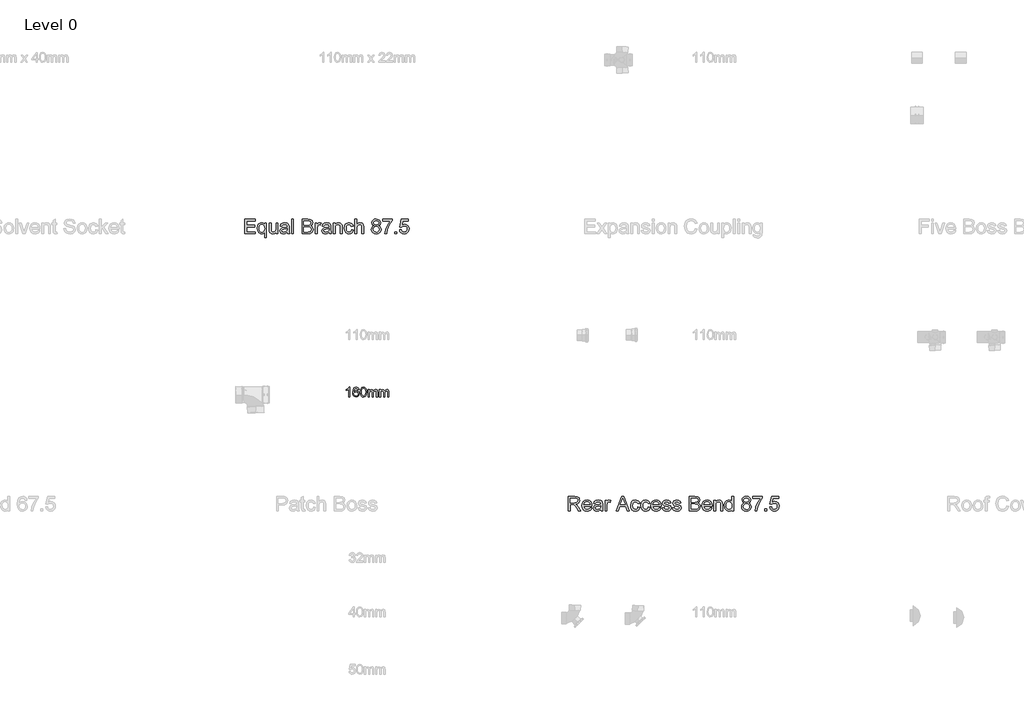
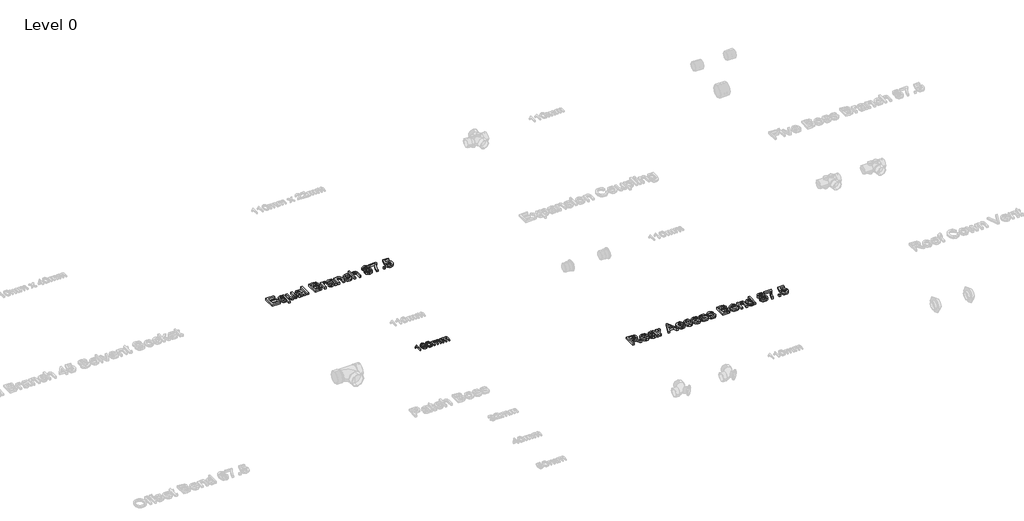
# One storey, part 20 of 28: 3 proxies.
"""IFC4 building model written with IfcOpenShell, lengths in millimetres."""

from ifc_helpers import new_model, si_unit, origin, origin_with_axes, place, context, project, spatial, polyline, outline, extrude, element, save

model = new_model("IFC4")

# Units and contexts
model_context = context("Model", 3, world=origin())
ifc_project = project(units=[si_unit("LENGTHUNIT", "METRE", prefix="MILLI")], contexts=[model_context])

# Site, building, storey
site = spatial("IfcSite", under=ifc_project)
building = spatial("IfcBuilding", under=site)
storey = spatial("IfcBuildingStorey", under=building, Name="Level 0", Elevation=0.0)

# Proxies
placement = place(None, origin())
element("IfcBuildingElementProxy", 1, Name="100mm Arial", ObjectType="100mm Arial", at=placement, inside=storey, context=model_context, shape_type="SweptSolid", body=[
    extrude(outline(polyline([(-6791.7293188, 2057.7167304), (-6804.0370111, 2057.7167304), (-6804.0370111, 2134.4474996), (-6815.6956649, 2126.1422111), (-6828.6523957, 2119.9282688), (-6828.6523957, 2131.5628842), (-6810.6115303, 2143.0773073), (-6799.6620111, 2156.1782688), (-6791.7293188, 2156.1782688), (-6791.7293188, 2057.7167304)])), origin_with_axes(), (0.0, 0.0, 1.0), 15.0),
    extrude(outline(polyline([(-6699.4216264, 2130.0244227), (-6711.7293188, 2128.4859611), (-6716.3927803, 2138.7503842), (-6728.7245111, 2143.8705765), (-6739.8302803, 2140.8898073), (-6748.2317226, 2129.6999035), (-6751.7293188, 2107.7648073), (-6740.8759534, 2117.5845188), (-6727.4264341, 2120.7936535), (-6716.0562418, 2118.6001438), (-6706.5129726, 2112.019615), (-6700.0406168, 2101.9655285), (-6697.8831649, 2089.3513458), (-6701.9456649, 2072.3681727), (-6713.1235495, 2060.3489419), (-6729.2533572, 2056.1782688), (-6743.2166986, 2058.9426919), (-6754.3374918, 2067.2359611), (-6761.6121313, 2081.8753842), (-6764.0370111, 2103.6782688), (-6761.3447034, 2128.19149), (-6753.2677803, 2144.9523073), (-6742.2401361, 2153.3717785), (-6727.9552803, 2156.1782688), (-6717.1560014, 2154.44149), (-6708.5081649, 2149.2311535), (-6702.4504726, 2140.9559131), (-6699.4216264, 2130.0244227)]), holes=[polyline([(-6751.7293188, 2089.5436535), (-6748.8807611, 2078.8825958), (-6741.3086457, 2071.1422111), (-6730.2148957, 2068.4859611), (-6722.0929005, 2069.8621631), (-6715.7076841, 2073.9907688), (-6711.5700639, 2080.4811535), (-6710.1908572, 2088.9426919), (-6711.5520351, 2097.0646871), (-6715.6355688, 2103.2575958), (-6730.7197034, 2108.4859611), (-6745.6115303, 2103.2575958), (-6750.1998716, 2097.2149275), (-6751.7293188, 2089.5436535)])]), origin_with_axes(), (0.0, 0.0, 1.0), 15.0),
    extrude(outline(polyline([(-6687.1139341, 2106.1542304), (-6683.4961457, 2134.4835573), (-6672.7509534, 2150.8176919), (-6654.8062418, 2156.1782688), (-6640.4312418, 2153.0051919), (-6630.5033572, 2143.8585573), (-6624.7341264, 2129.2912496), (-6622.4985495, 2106.1542304), (-6626.0802803, 2077.9450958), (-6636.7894149, 2061.5749035), (-6654.8062418, 2056.1782688), (-6667.5947034, 2058.5220188), (-6677.3062418, 2065.5532688), (-6684.6620111, 2082.2059131), (-6687.1139341, 2106.1542304)]), holes=[polyline([(-6674.8062418, 2106.1782688), (-6673.3639341, 2086.8182929), (-6669.0370111, 2075.613365), (-6662.5947034, 2070.2678121), (-6654.8062418, 2068.4859611), (-6647.0177803, 2070.2738217), (-6640.5754726, 2075.6374035), (-6636.2485495, 2086.848341), (-6634.8062418, 2106.1782688), (-6636.2004726, 2125.1025477), (-6640.3831649, 2136.394615), (-6646.8134534, 2142.0015861), (-6654.9504726, 2143.8705765), (-6662.6547995, 2142.2239419), (-6668.8447034, 2137.2840381), (-6673.3158572, 2125.2888458), (-6674.8062418, 2106.1782688)])]), origin_with_axes(), (0.0, 0.0, 1.0), 15.0),
    extrude(outline(polyline([(-6608.6523957, 2057.7167304), (-6608.6523957, 2130.0244227), (-6596.3447034, 2130.0244227), (-6596.3447034, 2118.1253842), (-6587.8831649, 2127.8729804), (-6575.8398957, 2131.5628842), (-6563.5081649, 2127.800865), (-6556.7293188, 2117.2599996), (-6547.1259534, 2127.9871631), (-6534.9985495, 2131.5628842), (-6525.7467466, 2130.0755044), (-6518.9047995, 2125.613365), (-6514.6770351, 2118.0562736), (-6513.2677803, 2107.2840381), (-6513.2677803, 2057.7167304), (-6525.5754726, 2057.7167304), (-6525.5754726, 2101.9955765), (-6526.7172995, 2112.2720188), (-6530.8519149, 2117.332115), (-6537.8831649, 2119.2551919), (-6549.9865303, 2114.3273073), (-6554.8062418, 2098.5340381), (-6554.8062418, 2057.7167304), (-6567.1139341, 2057.7167304), (-6567.1139341, 2103.3657688), (-6569.9624918, 2115.2888458), (-6579.3014341, 2119.2551919), (-6588.4120111, 2116.6109611), (-6594.4697034, 2108.8705765), (-6596.3447034, 2094.1830765), (-6596.3447034, 2057.7167304), (-6608.6523957, 2057.7167304)])), origin_with_axes(), (0.0, 0.0, 1.0), 15.0),
    extrude(outline(polyline([(-6494.8062418, 2057.7167304), (-6494.8062418, 2130.0244227), (-6482.4985495, 2130.0244227), (-6482.4985495, 2118.1253842), (-6474.0370111, 2127.8729804), (-6461.9937418, 2131.5628842), (-6449.6620111, 2127.800865), (-6442.8831649, 2117.2599996), (-6433.2797995, 2127.9871631), (-6421.1523957, 2131.5628842), (-6411.9005928, 2130.0755044), (-6405.0586457, 2125.613365), (-6400.8308813, 2118.0562736), (-6399.4216264, 2107.2840381), (-6399.4216264, 2057.7167304), (-6411.7293188, 2057.7167304), (-6411.7293188, 2101.9955765), (-6412.8711457, 2112.2720188), (-6417.0057611, 2117.332115), (-6424.0370111, 2119.2551919), (-6436.1403764, 2114.3273073), (-6440.960088, 2098.5340381), (-6440.960088, 2057.7167304), (-6453.2677803, 2057.7167304), (-6453.2677803, 2103.3657688), (-6456.116338, 2115.2888458), (-6465.4552803, 2119.2551919), (-6474.5658572, 2116.6109611), (-6480.6235495, 2108.8705765), (-6482.4985495, 2094.1830765), (-6482.4985495, 2057.7167304), (-6494.8062418, 2057.7167304)])), origin_with_axes(), (0.0, 0.0, 1.0), 15.0),
])
element("IfcBuildingElementProxy", 2, Name="150mm Arial", ObjectType="150mm Arial", at=placement, inside=storey, context=model_context, shape_type="SweptSolid", body=[
    extrude(outline(polyline([(-7854.0664512, 3705.2145219), (-7854.0664512, 3852.9068296), (-7747.912605, 3852.9068296), (-7747.912605, 3834.4452911), (-7835.6049127, 3834.4452911), (-7835.6049127, 3790.5991373), (-7752.5279897, 3790.5991373), (-7752.5279897, 3772.1375988), (-7835.6049127, 3772.1375988), (-7835.6049127, 3723.6760604), (-7745.6049127, 3723.6760604), (-7745.6049127, 3705.2145219), (-7854.0664512, 3705.2145219)])), origin_with_axes(), (0.0, 0.0, 1.0), 25.0),
    extrude(outline(polyline([(-7653.2972204, 3663.6760604), (-7653.2972204, 3719.9981758), (-7665.0159704, 3707.7746181), (-7681.0255858, 3702.9068296), (-7698.5766675, 3706.7514811), (-7713.5135666, 3718.2854354), (-7723.7359223, 3736.5171061), (-7727.1433743, 3760.4549065), (-7721.7347204, 3789.697695), (-7715.1091195, 3801.0738969), (-7706.0496243, 3809.3130796), (-7695.2773887, 3814.3160844), (-7683.5135666, 3815.9837527), (-7666.350105, 3810.8094738), (-7653.2972204, 3795.2866373), (-7653.2972204, 3813.6760604), (-7634.835682, 3813.6760604), (-7634.835682, 3663.6760604), (-7653.2972204, 3663.6760604)]), holes=[polyline([(-7708.6818358, 3759.4452911), (-7706.6040113, 3742.7866373), (-7700.3705377, 3730.8875988), (-7691.2344199, 3723.7481758), (-7680.4486627, 3721.3683681), (-7670.1136267, 3723.6309883), (-7661.320057, 3730.4188488), (-7655.3029296, 3741.8311085), (-7653.2972204, 3757.9669258), (-7655.4111026, 3775.2160243), (-7661.7527493, 3787.58832), (-7670.9429536, 3795.0387407), (-7681.6025089, 3797.5222142), (-7692.0637469, 3795.2100147), (-7700.80323, 3788.2734161), (-7706.7121844, 3776.4419859), (-7708.6818358, 3759.4452911)])]), origin_with_axes(), (0.0, 0.0, 1.0), 25.0),
    extrude(outline(polyline([(-7537.912605, 3705.2145219), (-7537.912605, 3723.8563488), (-7552.3717397, 3708.1442094), (-7571.2299127, 3702.9068296), (-7588.5916916, 3706.5847142), (-7600.5628454, 3715.8154835), (-7606.0616435, 3729.4092335), (-7607.1433743, 3746.572695), (-7607.1433743, 3813.6760604), (-7588.6818358, 3813.6760604), (-7588.6818358, 3755.2625988), (-7587.5640473, 3736.4404835), (-7580.2623647, 3725.3888008), (-7566.506355, 3721.3683681), (-7551.0916916, 3725.478945), (-7540.9053935, 3736.6748585), (-7537.912605, 3757.2457719), (-7537.912605, 3813.6760604), (-7519.4510666, 3813.6760604), (-7519.4510666, 3705.2145219), (-7537.912605, 3705.2145219)])), origin_with_axes(), (0.0, 0.0, 1.0), 25.0),
    extrude(outline(polyline([(-7424.835682, 3719.0606758), (-7442.7383262, 3706.5486565), (-7462.5159704, 3702.9068296), (-7477.9441555, 3705.0973344), (-7489.3248647, 3711.6688488), (-7496.342593, 3721.6478152), (-7498.6818358, 3734.0606758), (-7495.148182, 3748.6640411), (-7485.8633262, 3759.2650027), (-7472.9366435, 3765.322695), (-7456.9630858, 3768.0991373), (-7424.943855, 3774.4452911), (-7424.835682, 3778.5558681), (-7426.1067156, 3786.7950508), (-7429.9198166, 3792.1856758), (-7438.4474608, 3796.1880796), (-7450.3284704, 3797.5222142), (-7469.006355, 3793.9705315), (-7477.912605, 3781.3683681), (-7496.3741435, 3783.6760604), (-7488.3873647, 3801.7049065), (-7472.3056339, 3812.2698104), (-7447.9486627, 3815.9837527), (-7425.5748647, 3812.7025027), (-7412.9366435, 3804.46332), (-7407.2755858, 3791.9332719), (-7406.3741435, 3775.7794258), (-7406.3741435, 3752.8106758), (-7405.4366435, 3720.7373585), (-7401.7587589, 3705.2145219), (-7420.2202973, 3705.2145219), (-7424.835682, 3719.0606758)]), holes=[polyline([(-7424.835682, 3755.9837527), (-7454.6193358, 3750.322695), (-7470.5027493, 3747.3299065), (-7477.6962589, 3742.4621181), (-7480.2202973, 3735.3587527), (-7474.7214993, 3725.3707719), (-7458.585682, 3721.3683681), (-7439.9077973, 3725.7854354), (-7427.8645281, 3736.4765411), (-7424.943855, 3750.7553873), (-7424.835682, 3755.9837527)])]), origin_with_axes(), (0.0, 0.0, 1.0), 25.0),
    extrude(outline(polyline([(-7380.9895281, 3705.2145219), (-7380.9895281, 3852.9068296), (-7362.5279897, 3852.9068296), (-7362.5279897, 3705.2145219), (-7380.9895281, 3705.2145219)])), origin_with_axes(), (0.0, 0.0, 1.0), 25.0),
    extrude(outline(polyline([(-7274.835682, 3705.2145219), (-7274.835682, 3852.9068296), (-7218.4775089, 3852.9068296), (-7190.8753454, 3848.5618777), (-7181.5995041, 3843.049558), (-7174.5772685, 3835.2025027), (-7168.6818358, 3816.3082719), (-7173.6397685, 3799.0546661), (-7188.6217397, 3785.9837527), (-7178.1605017, 3780.5210123), (-7170.4306339, 3772.2097142), (-7165.6574969, 3761.5997383), (-7164.0664512, 3749.2409642), (-7168.4114031, 3729.3912046), (-7179.1746243, 3715.2565892), (-7195.2383262, 3707.7565892), (-7218.9102012, 3705.2145219), (-7274.835682, 3705.2145219)]), holes=[polyline([(-7256.3741435, 3723.6760604), (-7218.5135666, 3723.6760604), (-7204.8116435, 3724.3972142), (-7193.2190954, 3728.4176469), (-7185.538807, 3736.6207719), (-7182.5279897, 3749.0606758), (-7186.0616435, 3763.4116373), (-7197.5099608, 3771.9753392), (-7220.3164512, 3774.4452911), (-7256.3741435, 3774.4452911), (-7256.3741435, 3723.6760604)]), polyline([(-7256.3741435, 3792.9068296), (-7222.6602012, 3792.9068296), (-7202.9727012, 3794.4933681), (-7191.1277493, 3801.3263008), (-7187.1433743, 3813.3515411), (-7190.8573166, 3825.3948104), (-7201.4943358, 3832.5162046), (-7225.2202973, 3834.4452911), (-7256.3741435, 3834.4452911), (-7256.3741435, 3792.9068296)])]), origin_with_axes(), (0.0, 0.0, 1.0), 25.0),
    extrude(outline(polyline([(-7140.9895281, 3705.2145219), (-7140.9895281, 3813.6760604), (-7124.835682, 3813.6760604), (-7124.835682, 3797.6303873), (-7113.3693358, 3812.4140411), (-7101.8308743, 3815.9837527), (-7083.2972204, 3810.2866373), (-7089.4630858, 3793.7361565), (-7102.443855, 3797.5222142), (-7112.882557, 3793.8803873), (-7119.5352012, 3783.7842335), (-7122.5279897, 3762.2217335), (-7122.5279897, 3705.2145219), (-7140.9895281, 3705.2145219)])), origin_with_axes(), (0.0, 0.0, 1.0), 25.0),
    extrude(outline(polyline([(-7002.5279897, 3719.0606758), (-7020.4306339, 3706.5486565), (-7040.2082781, 3702.9068296), (-7055.6364632, 3705.0973344), (-7067.0171723, 3711.6688488), (-7074.0349007, 3721.6478152), (-7076.3741435, 3734.0606758), (-7072.8404897, 3748.6640411), (-7063.5556339, 3759.2650027), (-7050.6289512, 3765.322695), (-7034.6553935, 3768.0991373), (-7002.6361627, 3774.4452911), (-7002.5279897, 3778.5558681), (-7003.7990233, 3786.7950508), (-7007.6121243, 3792.1856758), (-7016.1397685, 3796.1880796), (-7028.0207781, 3797.5222142), (-7046.6986627, 3793.9705315), (-7055.6049127, 3781.3683681), (-7074.0664512, 3783.6760604), (-7066.0796723, 3801.7049065), (-7049.9979416, 3812.2698104), (-7025.6409704, 3815.9837527), (-7003.2671723, 3812.7025027), (-6990.6289512, 3804.46332), (-6984.9678935, 3791.9332719), (-6984.0664512, 3775.7794258), (-6984.0664512, 3752.8106758), (-6983.1289512, 3720.7373585), (-6979.4510666, 3705.2145219), (-6997.912605, 3705.2145219), (-7002.5279897, 3719.0606758)]), holes=[polyline([(-7002.5279897, 3755.9837527), (-7032.3116435, 3750.322695), (-7048.195057, 3747.3299065), (-7055.3885666, 3742.4621181), (-7057.912605, 3735.3587527), (-7052.413807, 3725.3707719), (-7036.2779897, 3721.3683681), (-7017.600105, 3725.7854354), (-7005.5568358, 3736.4765411), (-7002.6361627, 3750.7553873), (-7002.5279897, 3755.9837527)])]), origin_with_axes(), (0.0, 0.0, 1.0), 25.0),
    extrude(outline(polyline([(-6958.6818358, 3705.2145219), (-6958.6818358, 3813.6760604), (-6940.2202973, 3813.6760604), (-6940.2202973, 3798.5318296), (-6926.1037108, 3811.6207719), (-6906.8308743, 3815.9837527), (-6889.39698, 3812.4681277), (-6877.4979416, 3803.2373585), (-6871.9630858, 3789.6616373), (-6870.9895281, 3771.8130796), (-6870.9895281, 3705.2145219), (-6889.4510666, 3705.2145219), (-6889.4510666, 3769.3250988), (-6891.5784704, 3785.6592335), (-6899.0964993, 3794.2950508), (-6911.7707781, 3797.5222142), (-6922.5835786, 3795.7103152), (-6931.8008262, 3790.2746181), (-6938.1154296, 3779.7728152), (-6940.2202973, 3762.7625988), (-6940.2202973, 3705.2145219), (-6958.6818358, 3705.2145219)])), origin_with_axes(), (0.0, 0.0, 1.0), 25.0),
    extrude(outline(polyline([(-6776.3741435, 3744.4452911), (-6757.912605, 3742.1375988), (-6763.0598406, 3725.7178272), (-6772.7323166, 3713.3094738), (-6786.0195762, 3705.5074907), (-6802.0111627, 3702.9068296), (-6821.6490834, 3706.5351349), (-6837.0051531, 3717.4200508), (-6846.9165113, 3735.0838128), (-6850.2202973, 3759.0486565), (-6844.5772685, 3789.7157238), (-6837.4558743, 3801.2136205), (-6827.3777493, 3809.4212527), (-6815.3209584, 3814.3431277), (-6802.2635666, 3815.9837527), (-6786.6641074, 3813.7301469), (-6774.1926531, 3806.9693296), (-6765.2458382, 3796.0618777), (-6760.2202973, 3781.3683681), (-6778.6818358, 3779.0606758), (-6787.2455377, 3792.8888008), (-6802.1193358, 3797.5222142), (-6814.0499247, 3795.2415652), (-6823.5195762, 3788.3996181), (-6829.6989632, 3776.6267815), (-6831.7587589, 3759.5534642), (-6829.7440353, 3742.2502791), (-6823.6998647, 3730.4368777), (-6814.4014872, 3723.6354955), (-6802.6241435, 3721.3683681), (-6793.0643478, 3722.7836325), (-6785.226307, 3727.0294258), (-6779.5246844, 3734.213921), (-6776.3741435, 3744.4452911)])), origin_with_axes(), (0.0, 0.0, 1.0), 25.0),
    extrude(outline(polyline([(-6741.7587589, 3705.2145219), (-6741.7587589, 3852.9068296), (-6723.2972204, 3852.9068296), (-6723.2972204, 3798.603945), (-6708.9011868, 3811.6388008), (-6691.1698166, 3815.9837527), (-6670.4366435, 3811.2421661), (-6657.8525089, 3798.135195), (-6654.0664512, 3773.8683681), (-6654.0664512, 3705.2145219), (-6672.5279897, 3705.2145219), (-6672.5279897, 3771.9573104), (-6673.9973406, 3783.5138008), (-6678.4053935, 3791.4284642), (-6685.5087589, 3795.9987767), (-6695.0640473, 3797.5222142), (-6710.1902493, 3793.4116373), (-6720.2864031, 3782.2698104), (-6723.2972204, 3762.8347142), (-6723.2972204, 3705.2145219), (-6741.7587589, 3705.2145219)])), origin_with_axes(), (0.0, 0.0, 1.0), 25.0),
    extrude(outline(polyline([(-6548.7058743, 3786.5606758), (-6565.5267877, 3798.0270219), (-6570.9895281, 3815.8755796), (-6568.0147685, 3830.307671), (-6559.0904897, 3842.2337527), (-6545.2172925, 3850.2385604), (-6527.3957781, 3852.9068296), (-6509.4660906, 3850.1754594), (-6495.412605, 3841.9813488), (-6486.3260666, 3829.8659642), (-6483.2972204, 3815.3707719), (-6488.6878454, 3797.9729354), (-6505.0400089, 3786.5606758), (-6493.6773286, 3780.705808), (-6485.4065954, 3772.0835123), (-6480.3630257, 3761.1084522), (-6478.6818358, 3748.1952911), (-6482.0171723, 3730.5450508), (-6492.023182, 3715.9597142), (-6507.4739031, 3706.1700508), (-6527.1433743, 3702.9068296), (-6546.8128454, 3706.1835724), (-6562.2635666, 3716.0138008), (-6572.2695762, 3730.7388609), (-6575.6049127, 3748.7000988), (-6573.8561147, 3762.1135604), (-6568.6097204, 3773.1472142), (-6560.1361627, 3781.4224546), (-6548.7058743, 3786.5606758)]), holes=[polyline([(-6552.5279897, 3815.3347142), (-6550.8918719, 3807.27582), (-6545.9835185, 3800.8395219), (-6537.9471603, 3796.6207719), (-6526.9270281, 3795.2145219), (-6516.163807, 3796.6117575), (-6508.2491435, 3800.8034642), (-6503.381355, 3807.0234161), (-6501.7587589, 3814.5053873), (-6503.4354416, 3822.2713128), (-6508.4654897, 3828.6940892), (-6516.4883262, 3833.0074907), (-6527.1433743, 3834.4452911), (-6537.8660305, 3833.0390411), (-6545.8753454, 3828.8202911), (-6550.8648286, 3822.6363969), (-6552.5279897, 3815.3347142)]), polyline([(-6557.1433743, 3749.3491373), (-6554.0604416, 3735.4488969), (-6543.1529897, 3725.0462527), (-6526.9991435, 3721.3683681), (-6514.4330377, 3723.3019618), (-6505.0039512, 3729.1027431), (-6499.1085185, 3737.8872984), (-6497.1433743, 3748.7722142), (-6499.1716195, 3759.8419258), (-6505.256355, 3768.8202911), (-6514.9017877, 3774.7698104), (-6527.6121243, 3776.7529835), (-6540.0024488, 3774.7968536), (-6549.3368839, 3768.9284642), (-6555.1917517, 3760.1213729), (-6557.1433743, 3749.3491373)])]), origin_with_axes(), (0.0, 0.0, 1.0), 25.0),
    extrude(outline(polyline([(-6462.5279897, 3832.1375988), (-6462.5279897, 3850.5991373), (-6365.6049127, 3850.5991373), (-6365.6049127, 3835.6712527), (-6393.0989031, 3795.9537046), (-6414.1385666, 3745.3467335), (-6420.9895281, 3705.2145219), (-6439.4510666, 3705.2145219), (-6432.1133262, 3746.8611565), (-6411.975105, 3793.9344738), (-6384.0664512, 3832.1375988), (-6462.5279897, 3832.1375988)])), origin_with_axes(), (0.0, 0.0, 1.0), 25.0),
    extrude(outline(polyline([(-6340.2202973, 3705.2145219), (-6340.2202973, 3723.6760604), (-6321.7587589, 3723.6760604), (-6321.7587589, 3705.2145219), (-6340.2202973, 3705.2145219)])), origin_with_axes(), (0.0, 0.0, 1.0), 25.0),
    extrude(outline(polyline([(-6291.7587589, 3744.4452911), (-6273.2972204, 3746.7529835), (-6269.9077973, 3735.6697503), (-6263.9943358, 3727.7325508), (-6255.5838791, 3722.9594137), (-6244.7034704, 3721.3683681), (-6231.4702973, 3723.5814089), (-6221.554432, 3730.2205315), (-6215.3615233, 3740.5195099), (-6213.2972204, 3753.7121181), (-6215.2308142, 3766.1339931), (-6221.0315954, 3775.635195), (-6230.7446363, 3781.665844), (-6244.4150089, 3783.6760604), (-6260.6229416, 3780.4669258), (-6270.9895281, 3772.1375988), (-6289.4510666, 3774.4452911), (-6273.2972204, 3850.5991373), (-6201.7587589, 3850.5991373), (-6201.7587589, 3832.1375988), (-6258.3693358, 3832.1375988), (-6266.2659704, 3791.4645219), (-6253.0778695, 3799.4693296), (-6239.2587589, 3802.1375988), (-6222.0096603, 3798.8293056), (-6207.6902493, 3788.9044258), (-6198.0493238, 3773.7782238), (-6194.835682, 3754.8659642), (-6197.7293118, 3736.4044258), (-6206.4102012, 3720.6111565), (-6223.0327973, 3707.3329113), (-6244.7755858, 3702.9068296), (-6262.9080978, 3705.7508801), (-6277.3537108, 3714.2830315), (-6287.2560546, 3727.5116974), (-6291.7587589, 3744.4452911)])), origin_with_axes(), (0.0, 0.0, 1.0), 25.0),
])
element("IfcBuildingElementProxy", 3, Name="150mm Arial", ObjectType="150mm Arial", at=placement, inside=storey, context=model_context, shape_type="SweptSolid", body=[
    extrude(outline(polyline([(-4589.4510666, 905.2145219), (-4589.4510666, 1052.9068296), (-4525.8092397, 1052.9068296), (-4496.2599608, 1048.9224546), (-4487.1644079, 1043.4056277), (-4480.1061147, 1034.8238969), (-4475.5763671, 1024.1823705), (-4474.0664512, 1012.4861565), (-4476.5679536, 997.9368777), (-4484.0724608, 985.8755796), (-4496.8053334, 977.0324306), (-4514.991932, 972.1375988), (-4504.4991435, 964.2409642), (-4489.5352012, 945.2385604), (-4464.9077973, 905.2145219), (-4486.3621243, 905.2145219), (-4505.5808743, 935.8275027), (-4519.4630858, 956.0919258), (-4529.2166916, 965.6652431), (-4537.9967397, 969.1808681), (-4548.7058743, 969.8299065), (-4570.9895281, 969.8299065), (-4570.9895281, 905.2145219), (-4589.4510666, 905.2145219)]), holes=[polyline([(-4570.9895281, 988.291445), (-4529.6674127, 988.291445), (-4508.5916916, 990.9056277), (-4496.6205377, 999.2710123), (-4492.5279897, 1011.8010604), (-4494.4796122, 1020.806469), (-4500.33448, 1028.0630796), (-4510.4080978, 1032.8497383), (-4525.0159704, 1034.4452911), (-4570.9895281, 1034.4452911), (-4570.9895281, 988.291445)])]), origin_with_axes(), (0.0, 0.0, 1.0), 25.0),
    extrude(outline(polyline([(-4368.1289512, 937.5222142), (-4350.0279897, 935.2145219), (-4356.5499247, 921.5756998), (-4366.9570762, 911.3803873), (-4381.015069, 905.025219), (-4398.4895281, 902.9068296), (-4420.1511868, 906.5621782), (-4436.818855, 917.5282238), (-4447.4468598, 935.0928272), (-4450.9895281, 958.5438488), (-4447.4108022, 982.7836325), (-4436.6746243, 1000.9116373), (-4420.2323166, 1012.2157238), (-4399.5352012, 1015.9837527), (-4379.4826171, 1012.2247383), (-4363.45948, 1000.947695), (-4352.9531699, 982.8557479), (-4349.4510666, 958.6520219), (-4349.5592397, 953.6760604), (-4432.5279897, 953.6760604), (-4429.3323767, 939.8569498), (-4421.9089993, 929.697695), (-4411.1953574, 923.4506998), (-4398.1289512, 921.3683681), (-4380.0279897, 925.2265411), (-4368.1289512, 937.5222142)]), holes=[polyline([(-4432.5279897, 972.1375988), (-4367.912605, 972.1375988), (-4370.4096002, 981.8912046), (-4375.304432, 988.8683681), (-4386.0676531, 995.3587527), (-4399.6073166, 997.5222142), (-4412.0517276, 995.7959522), (-4422.3416916, 990.6171661), (-4429.4946363, 982.5447503), (-4432.5279897, 972.1375988)])]), origin_with_axes(), (0.0, 0.0, 1.0), 25.0),
    extrude(outline(polyline([(-4261.7587589, 919.0606758), (-4279.6614031, 906.5486565), (-4299.4390473, 902.9068296), (-4314.8672324, 905.0973344), (-4326.2479416, 911.6688488), (-4333.2656699, 921.6478152), (-4335.6049127, 934.0606758), (-4332.0712589, 948.6640411), (-4322.7864031, 959.2650027), (-4309.8597204, 965.322695), (-4293.8861627, 968.0991373), (-4261.866932, 974.4452911), (-4261.7587589, 978.5558681), (-4263.0297925, 986.7950508), (-4266.8428935, 992.1856758), (-4275.3705377, 996.1880796), (-4287.2515473, 997.5222142), (-4305.929432, 993.9705315), (-4314.835682, 981.3683681), (-4333.2972204, 983.6760604), (-4325.3104416, 1001.7049065), (-4309.2287108, 1012.2698104), (-4284.8717397, 1015.9837527), (-4262.4979416, 1012.7025027), (-4249.8597204, 1004.46332), (-4244.1986627, 991.9332719), (-4243.2972204, 975.7794258), (-4243.2972204, 952.8106758), (-4242.3597204, 920.7373585), (-4238.6818358, 905.2145219), (-4257.1433743, 905.2145219), (-4261.7587589, 919.0606758)]), holes=[polyline([(-4261.7587589, 955.9837527), (-4291.5424127, 950.322695), (-4307.4258262, 947.3299065), (-4314.6193358, 942.4621181), (-4317.1433743, 935.3587527), (-4311.6445762, 925.3707719), (-4295.5087589, 921.3683681), (-4276.8308743, 925.7854354), (-4264.787605, 936.4765411), (-4261.866932, 950.7553873), (-4261.7587589, 955.9837527)])]), origin_with_axes(), (0.0, 0.0, 1.0), 25.0),
    extrude(outline(polyline([(-4217.912605, 905.2145219), (-4217.912605, 1013.6760604), (-4201.7587589, 1013.6760604), (-4201.7587589, 997.6303873), (-4190.2924127, 1012.4140411), (-4178.7539512, 1015.9837527), (-4160.2202973, 1010.2866373), (-4166.3861627, 993.7361565), (-4179.366932, 997.5222142), (-4189.8056339, 993.8803873), (-4196.4582781, 983.7842335), (-4199.4510666, 962.2217335), (-4199.4510666, 905.2145219), (-4217.912605, 905.2145219)])), origin_with_axes(), (0.0, 0.0, 1.0), 25.0),
    extrude(outline(polyline([(-4105.881355, 905.2145219), (-4046.9270281, 1052.9068296), (-4031.2058743, 1052.9068296), (-3972.2515473, 905.2145219), (-3991.7587589, 905.2145219), (-4008.6698166, 951.3683681), (-4069.4991435, 951.3683681), (-4086.3741435, 905.2145219), (-4105.881355, 905.2145219)]), holes=[polyline([(-4062.7202973, 969.8299065), (-4015.412605, 969.8299065), (-4028.7178935, 1006.1400027), (-4039.0664512, 1034.4452911), (-4048.2611627, 1009.3130796), (-4062.7202973, 969.8299065)])]), origin_with_axes(), (0.0, 0.0, 1.0), 25.0),
    extrude(outline(polyline([(-3885.6049127, 944.4452911), (-3867.1433743, 942.1375988), (-3872.2906098, 925.7178272), (-3881.9630858, 913.3094738), (-3895.2503454, 905.5074907), (-3911.241932, 902.9068296), (-3930.8798526, 906.5351349), (-3946.2359223, 917.4200508), (-3956.1472805, 935.0838128), (-3959.4510666, 959.0486565), (-3953.8080377, 989.7157238), (-3946.6866435, 1001.2136205), (-3936.6085185, 1009.4212527), (-3924.5517276, 1014.3431277), (-3911.4943358, 1015.9837527), (-3895.8948767, 1013.7301469), (-3883.4234223, 1006.9693296), (-3874.4766074, 996.0618777), (-3869.4510666, 981.3683681), (-3887.912605, 979.0606758), (-3896.476307, 992.8888008), (-3911.350105, 997.5222142), (-3923.280694, 995.2415652), (-3932.7503454, 988.3996181), (-3938.9297324, 976.6267815), (-3940.9895281, 959.5534642), (-3938.9748046, 942.2502791), (-3932.9306339, 930.4368777), (-3923.6322565, 923.6354955), (-3911.8549127, 921.3683681), (-3902.2951171, 922.7836325), (-3894.4570762, 927.0294258), (-3888.7554536, 934.213921), (-3885.6049127, 944.4452911)])), origin_with_axes(), (0.0, 0.0, 1.0), 25.0),
    extrude(outline(polyline([(-3781.7587589, 944.4452911), (-3763.2972204, 942.1375988), (-3768.444456, 925.7178272), (-3778.116932, 913.3094738), (-3791.4041916, 905.5074907), (-3807.3957781, 902.9068296), (-3827.0336988, 906.5351349), (-3842.3897685, 917.4200508), (-3852.3011267, 935.0838128), (-3855.6049127, 959.0486565), (-3849.9618839, 989.7157238), (-3842.8404897, 1001.2136205), (-3832.7623647, 1009.4212527), (-3820.7055738, 1014.3431277), (-3807.648182, 1015.9837527), (-3792.0487228, 1013.7301469), (-3779.5772685, 1006.9693296), (-3770.6304536, 996.0618777), (-3765.6049127, 981.3683681), (-3784.0664512, 979.0606758), (-3792.6301531, 992.8888008), (-3807.5039512, 997.5222142), (-3819.4345401, 995.2415652), (-3828.9041916, 988.3996181), (-3835.0835786, 976.6267815), (-3837.1433743, 959.5534642), (-3835.1286507, 942.2502791), (-3829.08448, 930.4368777), (-3819.7861026, 923.6354955), (-3808.0087589, 921.3683681), (-3798.4489632, 922.7836325), (-3790.6109223, 927.0294258), (-3784.9092997, 934.213921), (-3781.7587589, 944.4452911)])), origin_with_axes(), (0.0, 0.0, 1.0), 25.0),
    extrude(outline(polyline([(-3671.2058743, 937.5222142), (-3653.1049127, 935.2145219), (-3659.6268478, 921.5756998), (-3670.0339993, 911.3803873), (-3684.0919921, 905.025219), (-3701.5664512, 902.9068296), (-3723.2281098, 906.5621782), (-3739.8957781, 917.5282238), (-3750.5237829, 935.0928272), (-3754.0664512, 958.5438488), (-3750.4877252, 982.7836325), (-3739.7515473, 1000.9116373), (-3723.3092397, 1012.2157238), (-3702.6121243, 1015.9837527), (-3682.5595401, 1012.2247383), (-3666.5364031, 1000.947695), (-3656.030093, 982.8557479), (-3652.5279897, 958.6520219), (-3652.6361627, 953.6760604), (-3735.6049127, 953.6760604), (-3732.4092997, 939.8569498), (-3724.9859223, 929.697695), (-3714.2722805, 923.4506998), (-3701.2058743, 921.3683681), (-3683.1049127, 925.2265411), (-3671.2058743, 937.5222142)]), holes=[polyline([(-3735.6049127, 972.1375988), (-3670.9895281, 972.1375988), (-3673.4865233, 981.8912046), (-3678.381355, 988.8683681), (-3689.1445762, 995.3587527), (-3702.6842397, 997.5222142), (-3715.1286507, 995.7959522), (-3725.4186147, 990.6171661), (-3732.5715594, 982.5447503), (-3735.6049127, 972.1375988)])]), origin_with_axes(), (0.0, 0.0, 1.0), 25.0),
    extrude(outline(polyline([(-3640.9895281, 937.5222142), (-3622.5279897, 939.8299065), (-3619.616331, 931.9332719), (-3613.9823166, 926.1279835), (-3594.4029897, 921.3683681), (-3575.5808743, 925.7313488), (-3569.4510666, 935.9717335), (-3575.616932, 944.2650027), (-3594.6193358, 949.5294258), (-3622.4198166, 958.5618777), (-3634.55323, 969.1087527), (-3638.6818358, 984.0005796), (-3635.3645281, 997.7565892), (-3626.3140473, 1008.2674065), (-3614.5772685, 1013.7301469), (-3598.693855, 1015.9837527), (-3576.2299127, 1012.3599546), (-3561.9510666, 1002.5522623), (-3555.6049127, 985.9837527), (-3574.0664512, 983.6760604), (-3581.007557, 993.8623585), (-3597.2515473, 997.5222142), (-3614.9198166, 994.0246181), (-3620.2202973, 985.8755796), (-3618.0207781, 980.5029835), (-3611.1337589, 976.4284642), (-3595.2323166, 972.4981758), (-3568.1349608, 963.8082719), (-3555.5508262, 953.9645219), (-3550.9895281, 937.9188488), (-3556.3440954, 920.2505796), (-3571.7948166, 907.43207), (-3594.6553935, 902.9068296), (-3613.2701772, 905.08832), (-3626.8549127, 911.6327911), (-3635.9234223, 922.4681277), (-3640.9895281, 937.5222142)])), origin_with_axes(), (0.0, 0.0, 1.0), 25.0),
    extrude(outline(polyline([(-3537.1433743, 937.5222142), (-3518.6818358, 939.8299065), (-3515.7701772, 931.9332719), (-3510.1361627, 926.1279835), (-3490.5568358, 921.3683681), (-3471.7347204, 925.7313488), (-3465.6049127, 935.9717335), (-3471.7707781, 944.2650027), (-3490.773182, 949.5294258), (-3518.5736627, 958.5618777), (-3530.7070762, 969.1087527), (-3534.835682, 984.0005796), (-3531.5183743, 997.7565892), (-3522.4678935, 1008.2674065), (-3510.7311147, 1013.7301469), (-3494.8477012, 1015.9837527), (-3472.3837589, 1012.3599546), (-3458.1049127, 1002.5522623), (-3451.7587589, 985.9837527), (-3470.2202973, 983.6760604), (-3477.1614031, 993.8623585), (-3493.4053935, 997.5222142), (-3511.0736627, 994.0246181), (-3516.3741435, 985.8755796), (-3514.1746243, 980.5029835), (-3507.287605, 976.4284642), (-3491.3861627, 972.4981758), (-3464.288807, 963.8082719), (-3451.7046723, 953.9645219), (-3447.1433743, 937.9188488), (-3452.4979416, 920.2505796), (-3467.9486627, 907.43207), (-3490.8092397, 902.9068296), (-3509.4240233, 905.08832), (-3523.0087589, 911.6327911), (-3532.0772685, 922.4681277), (-3537.1433743, 937.5222142)])), origin_with_axes(), (0.0, 0.0, 1.0), 25.0),
    extrude(outline(polyline([(-3366.3741435, 905.2145219), (-3366.3741435, 1052.9068296), (-3310.0159704, 1052.9068296), (-3282.413807, 1048.5618777), (-3273.1379656, 1043.049558), (-3266.11573, 1035.2025027), (-3260.2202973, 1016.3082719), (-3265.17823, 999.0546661), (-3280.1602012, 985.9837527), (-3269.6989632, 980.5210123), (-3261.9690954, 972.2097142), (-3257.1959584, 961.5997383), (-3255.6049127, 949.2409642), (-3259.9498647, 929.3912046), (-3270.7130858, 915.2565892), (-3286.7767877, 907.7565892), (-3310.4486627, 905.2145219), (-3366.3741435, 905.2145219)]), holes=[polyline([(-3347.912605, 923.6760604), (-3310.0520281, 923.6760604), (-3296.350105, 924.3972142), (-3284.757557, 928.4176469), (-3277.0772685, 936.6207719), (-3274.0664512, 949.0606758), (-3277.600105, 963.4116373), (-3289.0484223, 971.9753392), (-3311.8549127, 974.4452911), (-3347.912605, 974.4452911), (-3347.912605, 923.6760604)]), polyline([(-3347.912605, 992.9068296), (-3314.1986627, 992.9068296), (-3294.5111627, 994.4933681), (-3282.6662108, 1001.3263008), (-3278.6818358, 1013.3515411), (-3282.3957781, 1025.3948104), (-3293.0327973, 1032.5162046), (-3316.7587589, 1034.4452911), (-3347.912605, 1034.4452911), (-3347.912605, 992.9068296)])]), origin_with_axes(), (0.0, 0.0, 1.0), 25.0),
    extrude(outline(polyline([(-3156.5904897, 937.5222142), (-3138.4895281, 935.2145219), (-3145.0114632, 921.5756998), (-3155.4186147, 911.3803873), (-3169.4766074, 905.025219), (-3186.9510666, 902.9068296), (-3208.6127252, 906.5621782), (-3225.2803935, 917.5282238), (-3235.9083983, 935.0928272), (-3239.4510666, 958.5438488), (-3235.8723406, 982.7836325), (-3225.1361627, 1000.9116373), (-3208.693855, 1012.2157238), (-3187.9967397, 1015.9837527), (-3167.9441555, 1012.2247383), (-3151.9210185, 1000.947695), (-3141.4147084, 982.8557479), (-3137.912605, 958.6520219), (-3138.0207781, 953.6760604), (-3220.9895281, 953.6760604), (-3217.7939151, 939.8569498), (-3210.3705377, 929.697695), (-3199.6568959, 923.4506998), (-3186.5904897, 921.3683681), (-3168.4895281, 925.2265411), (-3156.5904897, 937.5222142)]), holes=[polyline([(-3220.9895281, 972.1375988), (-3156.3741435, 972.1375988), (-3158.8711387, 981.8912046), (-3163.7659704, 988.8683681), (-3174.5291916, 995.3587527), (-3188.068855, 997.5222142), (-3200.5132661, 995.7959522), (-3210.80323, 990.6171661), (-3217.9561747, 982.5447503), (-3220.9895281, 972.1375988)])]), origin_with_axes(), (0.0, 0.0, 1.0), 25.0),
    extrude(outline(polyline([(-3119.4510666, 905.2145219), (-3119.4510666, 1013.6760604), (-3100.9895281, 1013.6760604), (-3100.9895281, 998.5318296), (-3086.8729416, 1011.6207719), (-3067.600105, 1015.9837527), (-3050.1662108, 1012.4681277), (-3038.2671723, 1003.2373585), (-3032.7323166, 989.6616373), (-3031.7587589, 971.8130796), (-3031.7587589, 905.2145219), (-3050.2202973, 905.2145219), (-3050.2202973, 969.3250988), (-3052.3477012, 985.6592335), (-3059.86573, 994.2950508), (-3072.5400089, 997.5222142), (-3083.3528094, 995.7103152), (-3092.570057, 990.2746181), (-3098.8846603, 979.7728152), (-3100.9895281, 962.7625988), (-3100.9895281, 905.2145219), (-3119.4510666, 905.2145219)])), origin_with_axes(), (0.0, 0.0, 1.0), 25.0),
    extrude(outline(polyline([(-2939.4510666, 905.2145219), (-2939.4510666, 922.6303873), (-2951.6656098, 907.837719), (-2968.5496243, 902.9068296), (-2980.4847204, 904.6916854), (-2991.4102012, 910.0462527), (-3000.6589993, 918.596433), (-3007.5640473, 929.9681277), (-3011.8639272, 943.7016012), (-3013.2972204, 959.3371181), (-3008.0147685, 988.7241373), (-3001.4162108, 1000.3797863), (-2992.1854416, 1008.9525027), (-2981.0210786, 1014.2259402), (-2968.6217397, 1015.9837527), (-2951.6025089, 1010.9537046), (-2939.4510666, 997.8827911), (-2939.4510666, 1052.9068296), (-2920.9895281, 1052.9068296), (-2920.9895281, 905.2145219), (-2939.4510666, 905.2145219)]), holes=[polyline([(-2994.835682, 959.4092335), (-2992.7533502, 942.7100147), (-2986.506355, 930.8335123), (-2977.428831, 923.7346541), (-2966.8549127, 921.3683681), (-2956.2855017, 923.6264811), (-2947.4378454, 930.40082), (-2941.4477613, 941.8175868), (-2939.4510666, 958.0029835), (-2941.483819, 975.698296), (-2947.5820762, 987.9669258), (-2956.655093, 995.1333921), (-2967.6121243, 997.5222142), (-2978.2942156, 995.2280436), (-2987.0472204, 988.3455315), (-2992.8885666, 976.5231157), (-2994.835682, 959.4092335)])]), origin_with_axes(), (0.0, 0.0, 1.0), 25.0),
    extrude(outline(polyline([(-2813.3212589, 986.5606758), (-2830.1421723, 998.0270219), (-2835.6049127, 1015.8755796), (-2832.6301531, 1030.307671), (-2823.7058743, 1042.2337527), (-2809.8326772, 1050.2385604), (-2792.0111627, 1052.9068296), (-2774.0814752, 1050.1754594), (-2760.0279897, 1041.9813488), (-2750.9414512, 1029.8659642), (-2747.912605, 1015.3707719), (-2753.30323, 997.9729354), (-2769.6553935, 986.5606758), (-2758.2927132, 980.705808), (-2750.02198, 972.0835123), (-2744.9784103, 961.1084522), (-2743.2972204, 948.1952911), (-2746.632557, 930.5450508), (-2756.6385666, 915.9597142), (-2772.0892877, 906.1700508), (-2791.7587589, 902.9068296), (-2811.42823, 906.1835724), (-2826.8789512, 916.0138008), (-2836.8849608, 930.7388609), (-2840.2202973, 948.7000988), (-2838.4714993, 962.1135604), (-2833.225105, 973.1472142), (-2824.7515473, 981.4224546), (-2813.3212589, 986.5606758)]), holes=[polyline([(-2817.1433743, 1015.3347142), (-2815.5072565, 1007.27582), (-2810.5989031, 1000.8395219), (-2802.5625449, 996.6207719), (-2791.5424127, 995.2145219), (-2780.7791916, 996.6117575), (-2772.8645281, 1000.8034642), (-2767.9967397, 1007.0234161), (-2766.3741435, 1014.5053873), (-2768.0508262, 1022.2713128), (-2773.0808743, 1028.6940892), (-2781.1037108, 1033.0074907), (-2791.7587589, 1034.4452911), (-2802.4814151, 1033.0390411), (-2810.49073, 1028.8202911), (-2815.4802132, 1022.6363969), (-2817.1433743, 1015.3347142)]), polyline([(-2821.7587589, 949.3491373), (-2818.6758262, 935.4488969), (-2807.7683743, 925.0462527), (-2791.6145281, 921.3683681), (-2779.0484223, 923.3019618), (-2769.6193358, 929.1027431), (-2763.7239031, 937.8872984), (-2761.7587589, 948.7722142), (-2763.7870041, 959.8419258), (-2769.8717397, 968.8202911), (-2779.5171723, 974.7698104), (-2792.2275089, 976.7529835), (-2804.6178334, 974.7968536), (-2813.9522685, 968.9284642), (-2819.8071363, 960.1213729), (-2821.7587589, 949.3491373)])]), origin_with_axes(), (0.0, 0.0, 1.0), 25.0),
    extrude(outline(polyline([(-2727.1433743, 1032.1375988), (-2727.1433743, 1050.5991373), (-2630.2202973, 1050.5991373), (-2630.2202973, 1035.6712527), (-2657.7142877, 995.9537046), (-2678.7539512, 945.3467335), (-2685.6049127, 905.2145219), (-2704.0664512, 905.2145219), (-2696.7287108, 946.8611565), (-2676.5904897, 993.9344738), (-2648.6818358, 1032.1375988), (-2727.1433743, 1032.1375988)])), origin_with_axes(), (0.0, 0.0, 1.0), 25.0),
    extrude(outline(polyline([(-2604.835682, 905.2145219), (-2604.835682, 923.6760604), (-2586.3741435, 923.6760604), (-2586.3741435, 905.2145219), (-2604.835682, 905.2145219)])), origin_with_axes(), (0.0, 0.0, 1.0), 25.0),
    extrude(outline(polyline([(-2556.3741435, 944.4452911), (-2537.912605, 946.7529835), (-2534.523182, 935.6697503), (-2528.6097204, 927.7325508), (-2520.1992637, 922.9594137), (-2509.318855, 921.3683681), (-2496.085682, 923.5814089), (-2486.1698166, 930.2205315), (-2479.9769079, 940.5195099), (-2477.912605, 953.7121181), (-2479.8461988, 966.1339931), (-2485.64698, 975.635195), (-2495.3600209, 981.665844), (-2509.0303935, 983.6760604), (-2525.2383262, 980.4669258), (-2535.6049127, 972.1375988), (-2554.0664512, 974.4452911), (-2537.912605, 1050.5991373), (-2466.3741435, 1050.5991373), (-2466.3741435, 1032.1375988), (-2522.9847204, 1032.1375988), (-2530.881355, 991.4645219), (-2517.6932541, 999.4693296), (-2503.8741435, 1002.1375988), (-2486.6250449, 998.8293056), (-2472.3056339, 988.9044258), (-2462.6647084, 973.7782238), (-2459.4510666, 954.8659642), (-2462.3446964, 936.4044258), (-2471.0255858, 920.6111565), (-2487.648182, 907.3329113), (-2509.3909704, 902.9068296), (-2527.5234824, 905.7508801), (-2541.9690954, 914.2830315), (-2551.8714392, 927.5116974), (-2556.3741435, 944.4452911)])), origin_with_axes(), (0.0, 0.0, 1.0), 25.0),
])

save(model, "model.ifc")
